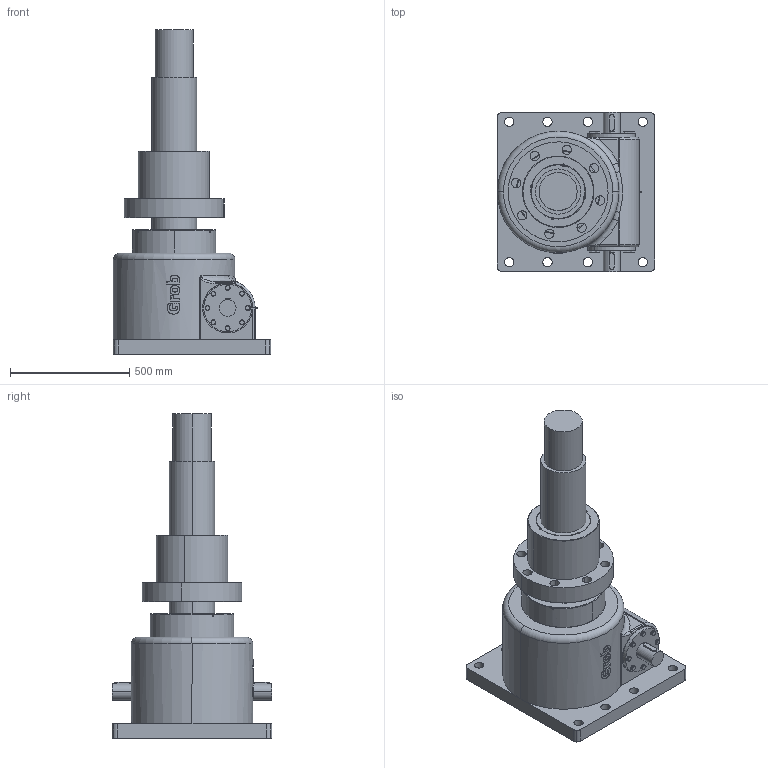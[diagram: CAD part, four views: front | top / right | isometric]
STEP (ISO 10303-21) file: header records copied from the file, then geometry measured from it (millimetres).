
FILE_DESCRIPTION(('STEP AP203'),'1');
FILE_NAME('mc150-lmn-f-1f-z-0260-0640-tr190x24-ab-o_0.stp','2023-12-20T14:57:54',('TraceParts'),('TraceParts S.A.'),'Spatial InterOp 3D',' ',' ');
FILE_SCHEMA(('CONFIG_CONTROL_DESIGN'));
Length unit declared in the file: millimetre
Products named in the file (1): 1
Bounding box: 660 x 671 x 1362.5 mm (x, y, z)
Volume: 164415974.5 mm3; surface area: 3584199.2 mm2
Topology: 61 solids, 69 shells, 2829 faces, 7475 edges, 4833 vertices
Faces by surface type: cylinder 1501, plane 817, cone 428, bspline 51, torus 30, sphere 2
Entity records: 105961 total; most frequent: CARTESIAN_POINT 34407, DIRECTION 15912, ORIENTED_EDGE 14778, EDGE_CURVE 7389, AXIS2_PLACEMENT_3D 6317, VERTEX_POINT 4833, CIRCLE 3492, LINE 3278
